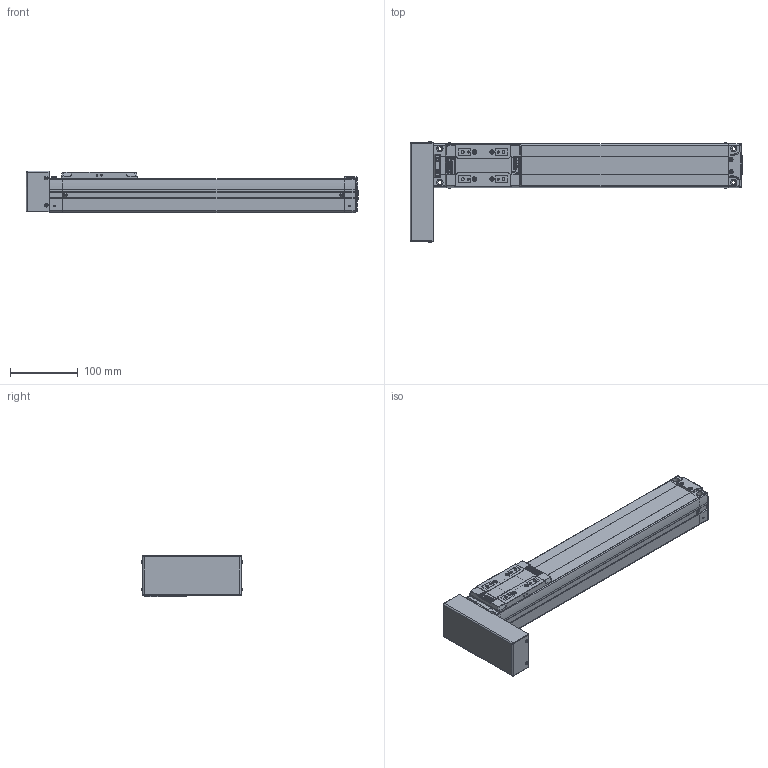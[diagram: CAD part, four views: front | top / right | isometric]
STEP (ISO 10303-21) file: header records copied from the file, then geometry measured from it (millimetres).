
FILE_DESCRIPTION(('STEP AP214'),'1');
FILE_NAME('Z:/Web/3D/SAN65/STP/SAN65ㅁㅁ-300PR.stp','2012-06-14T05:13:50',(' '),(' '),'Spatial InterOp 3D',' ',' ');
FILE_SCHEMA(('automotive_design'));
Length unit declared in the file: metre
Products named in the file (34): SAN65__-300; BODY-SAN65; REAR-SAN65; RRCV-SAN65; 스크루 : Round - M3.0 x 6.0; FRONT-SAN65; SHAFT-SAN65; RN8 x 0.75; SSFX-SAN65; SLIDE-SAN65; SLCV-SAN65; 스크루 : Countersunk - M3.0 x 6.0; ____204; PR; BTCV-SAN65; BHCS M3 X 6L
Assembly tree (33 placements, depth 4):
  ____204
    SAN65__-300
      BODY-SAN65
      REAR-SAN65
        REAR-SAN65
        RRCV-SAN65
        스크루 : Round - M3.0 x 6.0
        스크루 : Round - M3.0 x 6.0
        스크루 : Round - M3.0 x 6.0
        스크루 : Round - M3.0 x 6.0
        스크루 : Round - M3.0 x 6.0
        스크루 : Round - M3.0 x 6.0
      FRONT-SAN65
        FRONT-SAN65
        SHAFT-SAN65
        RN8 x 0.75
        SSFX-SAN65
        스크루 : Round - M3.0 x 6.0
        스크루 : Round - M3.0 x 6.0
        스크루 : Round - M3.0 x 6.0
        스크루 : Round - M3.0 x 6.0
      SLIDE-SAN65
        SLIDE-SAN65
        SLCV-SAN65
        스크루 : Countersunk - M3.0 x 6.0
        스크루 : Countersunk - M3.0 x 6.0
        스크루 : Countersunk - M3.0 x 6.0
        스크루 : Countersunk - M3.0 x 6.0
    PR
      BTCV-SAN65
      BHCS M3 X 6L
      BHCS M3 X 6L
      BHCS M3 X 6L
      BHCS M3 X 6L
Bounding box: 490.15 x 149.13 x 61 mm (x, y, z)
Volume: 1748564.4 mm3; surface area: 218508.3 mm2
Topology: 28 solids, 28 shells, 1462 faces, 3739 edges, 2430 vertices
Faces by surface type: plane 892, cylinder 417, cone 79, bspline 30, sphere 26, torus 15, extrusion 3
Full cylindrical faces by diameter (mm): 0.571 x2, 0.706 x1, 1.727 x2, 2.132 x1, 2.2 x4, 2.5 x9, 2.528 x4, 3 x6, 3.121 x2, 3.3 x4, 3.4 x8, 3.5 x6, 4.2 x26, 4.849 x4, 5 x2, 5.5 x4, 5.987 x2, 6 x6, 6.35 x1, 7 x1, 8 x4, 9.5 x4, 13 x1, 15 x1, 19 x1, 26 x1, 38.1 x1
Entity records: 59788 total; most frequent: CARTESIAN_POINT 12334, DIRECTION 7339, ORIENTED_EDGE 6920, EDGE_CURVE 3460, AXIS2_PLACEMENT_3D 2501, VERTEX_POINT 2380, VECTOR 2337, LINE 2334
